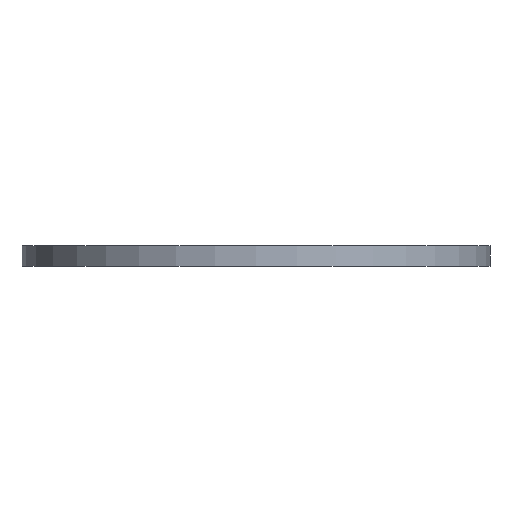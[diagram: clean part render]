
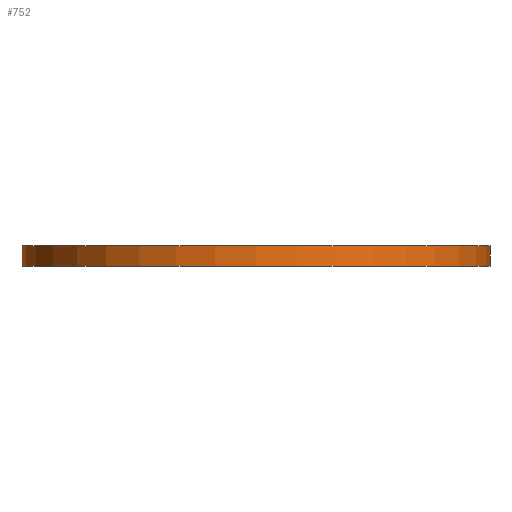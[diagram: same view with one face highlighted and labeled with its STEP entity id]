
A CAD part, front view. The second image highlights one B-rep face of the part: STEP entity #752.
In plain terms, the highlighted cylindrical face has radius 36.513 mm (diameter 73.025 mm), a partial arc.
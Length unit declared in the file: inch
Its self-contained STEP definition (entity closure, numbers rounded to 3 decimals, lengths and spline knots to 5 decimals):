
#52 = DIRECTION ( 'NONE',  ( 0., 0., 1. ) ) ;
#65 = CARTESIAN_POINT ( 'NONE',  ( 0., 0., 0.1875 ) ) ;
#92 = AXIS2_PLACEMENT_3D ( 'NONE', #593, #52, #691 ) ;
#179 = ORIENTED_EDGE ( 'NONE', *, *, #1165, .T. ) ;
#194 = CARTESIAN_POINT ( 'NONE',  ( -1.4375, 0., 0.1875 ) ) ;
#231 = AXIS2_PLACEMENT_3D ( 'NONE', #65, #422, #703 ) ;
#241 = VERTEX_POINT ( 'NONE', #867 ) ;
#244 = EDGE_CURVE ( 'NONE', #241, #400, #253, .T. ) ;
#253 = CIRCLE ( 'NONE', #92, 1.4375 ) ;
#263 = CARTESIAN_POINT ( 'NONE',  ( 1.4375, 0., 0.1875 ) ) ;
#306 = FACE_OUTER_BOUND ( 'NONE', #416, .T. ) ;
#400 = VERTEX_POINT ( 'NONE', #1069 ) ;
#416 = EDGE_LOOP ( 'NONE', ( #563, #874, #179, #474 ) ) ;
#422 = DIRECTION ( 'NONE',  ( 0., 0., -1. ) ) ;
#466 = EDGE_CURVE ( 'NONE', #1153, #400, #1016, .T. ) ;
#474 = ORIENTED_EDGE ( 'NONE', *, *, #244, .T. ) ;
#518 = CARTESIAN_POINT ( 'NONE',  ( 0., 0., 0.125 ) ) ;
#563 = ORIENTED_EDGE ( 'NONE', *, *, #466, .F. ) ;
#593 = CARTESIAN_POINT ( 'NONE',  ( 0., 0., 0. ) ) ;
#610 = DIRECTION ( 'NONE',  ( 1., 0., 0. ) ) ;
#691 = DIRECTION ( 'NONE',  ( 1., 0., 0. ) ) ;
#700 = VECTOR ( 'NONE', #932, 39.37008 ) ;
#703 = DIRECTION ( 'NONE',  ( -1., 0., 0. ) ) ;
#732 = EDGE_CURVE ( 'NONE', #1152, #1153, #819, .T. ) ;
#752 = ADVANCED_FACE ( 'NONE', ( #306 ), #773, .T. ) ;
#773 = CYLINDRICAL_SURFACE ( 'NONE', #231, 1.4375 ) ;
#789 = VECTOR ( 'NONE', #1085, 39.37008 ) ;
#819 = CIRCLE ( 'NONE', #1166, 1.4375 ) ;
#831 = CARTESIAN_POINT ( 'NONE',  ( -1.4375, 0., 0.125 ) ) ;
#867 = CARTESIAN_POINT ( 'NONE',  ( -1.4375, 0., 0. ) ) ;
#874 = ORIENTED_EDGE ( 'NONE', *, *, #732, .F. ) ;
#932 = DIRECTION ( 'NONE',  ( 0., 0., -1. ) ) ;
#972 = LINE ( 'NONE', #194, #700 ) ;
#1016 = LINE ( 'NONE', #263, #789 ) ;
#1069 = CARTESIAN_POINT ( 'NONE',  ( 1.4375, 0., 0. ) ) ;
#1085 = DIRECTION ( 'NONE',  ( 0., 0., -1. ) ) ;
#1100 = CARTESIAN_POINT ( 'NONE',  ( 1.4375, 0., 0.125 ) ) ;
#1149 = DIRECTION ( 'NONE',  ( 0., 0., 1. ) ) ;
#1152 = VERTEX_POINT ( 'NONE', #831 ) ;
#1153 = VERTEX_POINT ( 'NONE', #1100 ) ;
#1165 = EDGE_CURVE ( 'NONE', #1152, #241, #972, .T. ) ;
#1166 = AXIS2_PLACEMENT_3D ( 'NONE', #518, #1149, #610 ) ;
